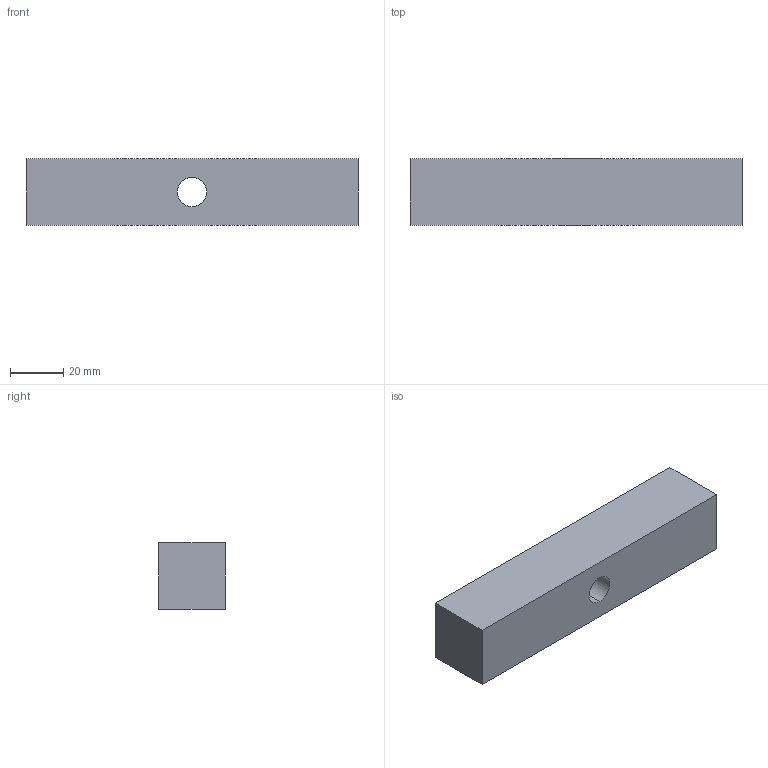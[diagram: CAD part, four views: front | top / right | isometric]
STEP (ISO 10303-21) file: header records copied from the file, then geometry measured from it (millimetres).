
FILE_DESCRIPTION(('CATIA V5 STEP Exchange'),'2;1');
FILE_NAME('C:\Users\Raffaele\Desktop\3D X SITO CF\760\GSB_OILLESS_M317042525125\STEP-2.03\760-2525125.stp','2019-07-04T13:23:16+00:00',('none'),('none'),'CATIA Version 5 Release 20 GA (IN-10)','CATIA V5 STEP AP203','none');
FILE_SCHEMA(('CONFIG_CONTROL_DESIGN'));
Length unit declared in the file: millimetre
Products named in the file (1): 760-2525125
Bounding box: 125 x 25 x 25 mm (x, y, z)
Volume: 73119.7 mm3; surface area: 14763.2 mm2
Topology: 1 solids, 1 shells, 11 faces, 32 edges, 24 vertices
Faces by surface type: plane 7, cylinder 4
Entity records: 464 total; most frequent: CARTESIAN_POINT 124, ORIENTED_EDGE 64, DIRECTION 50, EDGE_CURVE 32, AXIS2_PLACEMENT_3D 24, VERTEX_POINT 24, VECTOR 16, LINE 16
